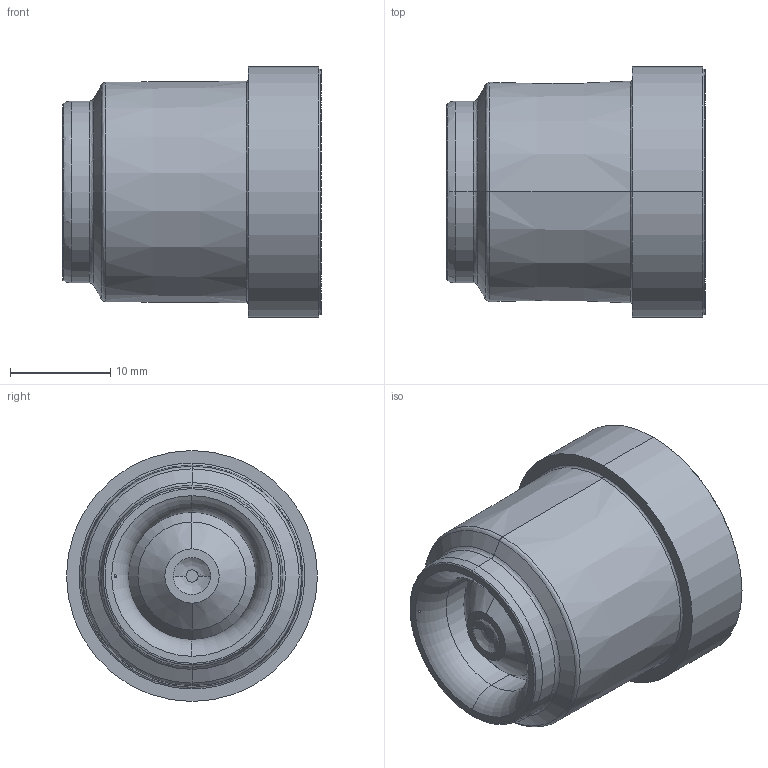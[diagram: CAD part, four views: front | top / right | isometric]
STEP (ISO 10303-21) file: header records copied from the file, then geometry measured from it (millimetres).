
FILE_DESCRIPTION (( 'STEP AP203' ), '1' );
FILE_NAME ('WM020-W149020600.STEP', '2020-04-08T14:52:29', ( '' ), ( '' ), 'SwSTEP 2.0', 'SolidWorks 2017', '' );
FILE_SCHEMA (( 'CONFIG_CONTROL_DESIGN' ));
Length unit declared in the file: metre
Products named in the file (6): Pièce35^ASM_FRVIR_0000002714; PRT_FRVIR_0000007802; WM020-W149020600; PRT_FRVIR_0000007807; PRT_FRVIR_0000008110; PRT_FRVIR_0000007803_DéfautSpl(monté)
Assembly tree (5 placements, depth 2):
  WM020-W149020600
    PRT_FRVIR_0000007802
    PRT_FRVIR_0000007803_DéfautSpl(monté)
    PRT_FRVIR_0000007807
    PRT_FRVIR_0000008110
    Pièce35^ASM_FRVIR_0000002714
Bounding box: 25.75 x 25 x 25 mm (x, y, z)
Volume: 4696.4 mm3; surface area: 7271.5 mm2
Topology: 5 solids, 5 shells, 440 faces, 1160 edges, 751 vertices
Faces by surface type: plane 204, bspline 110, cone 70, cylinder 52, torus 4
Entity records: 21505 total; most frequent: CARTESIAN_POINT 11020, ORIENTED_EDGE 2320, DIRECTION 1674, EDGE_CURVE 1160, VERTEX_POINT 751, AXIS2_PLACEMENT_3D 572, VECTOR 530, LINE 530
